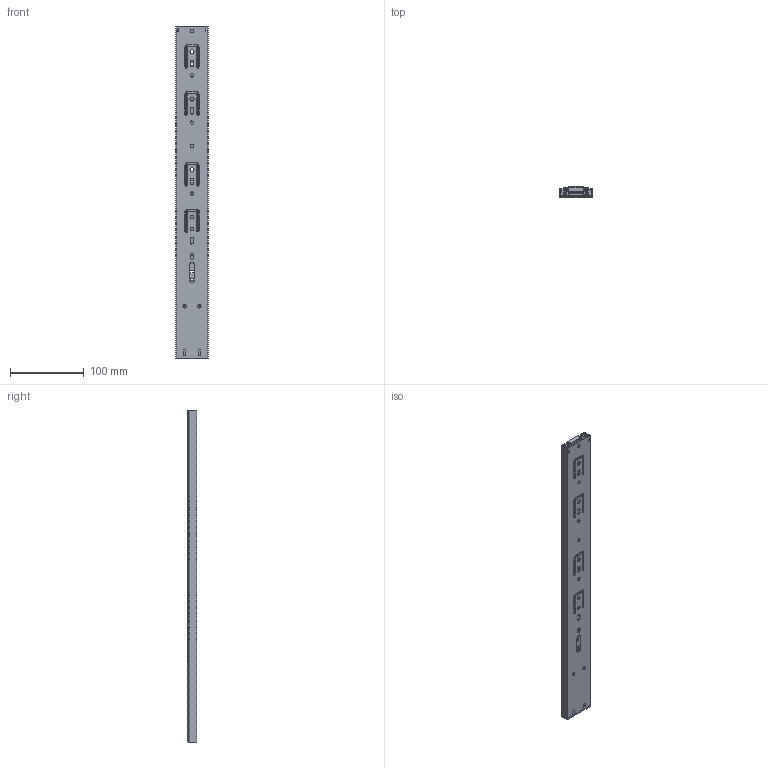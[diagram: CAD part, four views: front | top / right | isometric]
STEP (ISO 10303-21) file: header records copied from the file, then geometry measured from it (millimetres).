
FILE_DESCRIPTION(/* description */ (''),/* implementation_level */ '2;1');
FILE_NAME(/* name */ 'C:\Users\dmitruk\Documents\WORK\НАПРАВЛЯЮЩИЕ\Шариковые\Доводчик\h45 L-450 с доводчиком AKS.stp',/* time_stamp */ '2022-04-19T17:46:22+03:00',/* author */ ('dmitruk'),/* organization */ ('AKS'),/* preprocessor_version */ 'ST-DEVELOPER v16.5',/* originating_system */ 'Autodesk Inventor 2017',/* authorisation */ '');
FILE_SCHEMA (('AUTOMOTIVE_DESIGN { 1 0 10303 214 3 1 1 }'));
Length unit declared in the file: millimetre
Products named in the file (6): h45 L-450 с \X2\0434043E0432043E043404470438
043A043E043C\X0\ AKS; h45 L-450 AKS_11довод; h45 L-450 AKS_12довод; h45 L-400_13; h45 L-450 AKS_2довод; Доводчик
Assembly tree (5 placements, depth 2):
  h45 L-450 с \X2\0434043E0432043E043404470438
043A043E043C\X0\ AKS
    h45 L-450 AKS_11довод
    h45 L-450 AKS_12довод
    h45 L-400_13
    h45 L-450 AKS_2довод
    Доводчик
Bounding box: 44 x 13 x 450 mm (x, y, z)
Volume: 82054.9 mm3; surface area: 143040.4 mm2
Topology: 5 solids, 5 shells, 739 faces, 2116 edges, 1387 vertices
Faces by surface type: plane 422, cylinder 269, sphere 48
Full cylindrical faces by diameter (mm): 4.5 x14, 5.5 x3
Entity records: 24723 total; most frequent: CARTESIAN_POINT 4482, DIRECTION 4226, ORIENTED_EDGE 4190, EDGE_CURVE 2095, LINE 1412, VECTOR 1412, AXIS2_PLACEMENT_3D 1407, VERTEX_POINT 1383
